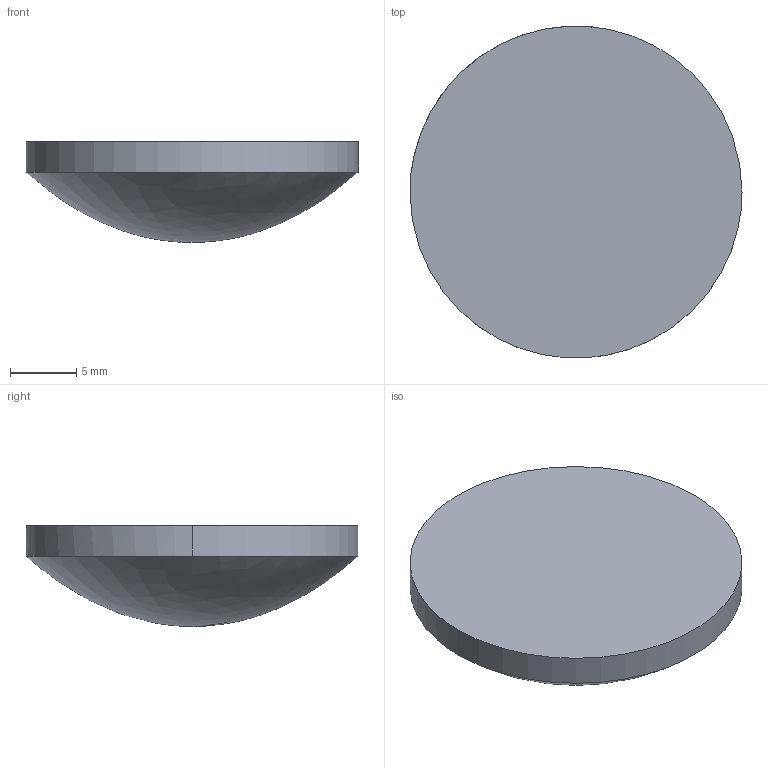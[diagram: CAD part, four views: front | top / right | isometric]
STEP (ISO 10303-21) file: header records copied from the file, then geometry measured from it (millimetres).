
FILE_DESCRIPTION ((), '1');
FILE_NAME ('\\fileserver\Daten\Applikationen\Optikdesign\SPA-Design\aktuelle SPA-Designs\Linsenkataloge - 2016-Juni\Zemax\AHL\AHL25-20.STP', '2016-05-24T14:18:20', ('Unknown'), ('Unknown'), 'HarmonyWare STEP v2.0.1', 'HarmonyWare Translators', '');
FILE_SCHEMA (('CONFIG_CONTROL_DESIGN'));
Length unit declared in the file: millimetre
Products named in the file (1): NONE
Bounding box: 25 x 24.98 x 7.6 mm (x, y, z)
Volume: 2454.5 mm3; surface area: 1245.1 mm2
Topology: 1 solids, 1 shells, 4 faces, 9 edges, 6 vertices
Faces by surface type: cylinder 2, bspline 1, plane 1
Entity records: 305 total; most frequent: CARTESIAN_POINT 154, ORIENTED_EDGE 16, EDGE_CURVE 8, PERSON 8, ORGANIZATION 8, PERSON_AND_ORGANIZATION 8, VERTEX_POINT 6, DIRECTION 6
